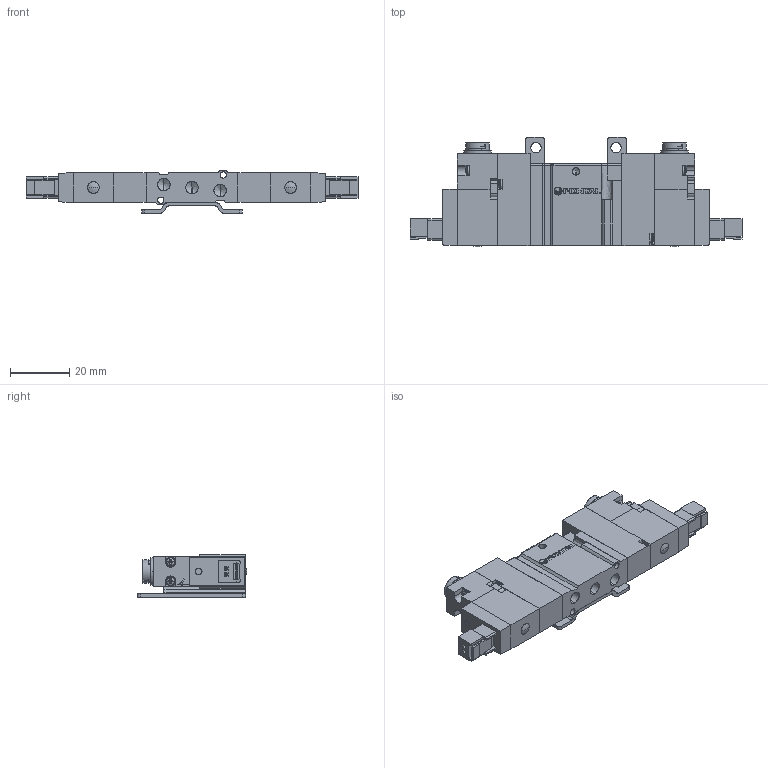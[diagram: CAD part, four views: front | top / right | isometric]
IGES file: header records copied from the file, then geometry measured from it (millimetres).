
Start section: SolidWorks IGES file using analytic representation for surfaces
Global section: file name: D:\Custom\3D繪製\ADEX\A05RS25\A05RD25#-BS-#-#-E.IGS,1; native system: 5HSolidWorks 2014; preprocessor: SolidWorks 2014; author: Chieh_Lu; date: 150725.204431; units: millimetre
Bounding box: 112 x 36.9 x 14.4 mm (x, y, z)
Surface area: 18765.4 mm2 (no closed solid volume)
Topology: 0 solids, 0 shells, 1043 faces, 8916 edges, 8880 vertices
Faces by surface type: bspline 711, revolution 332
